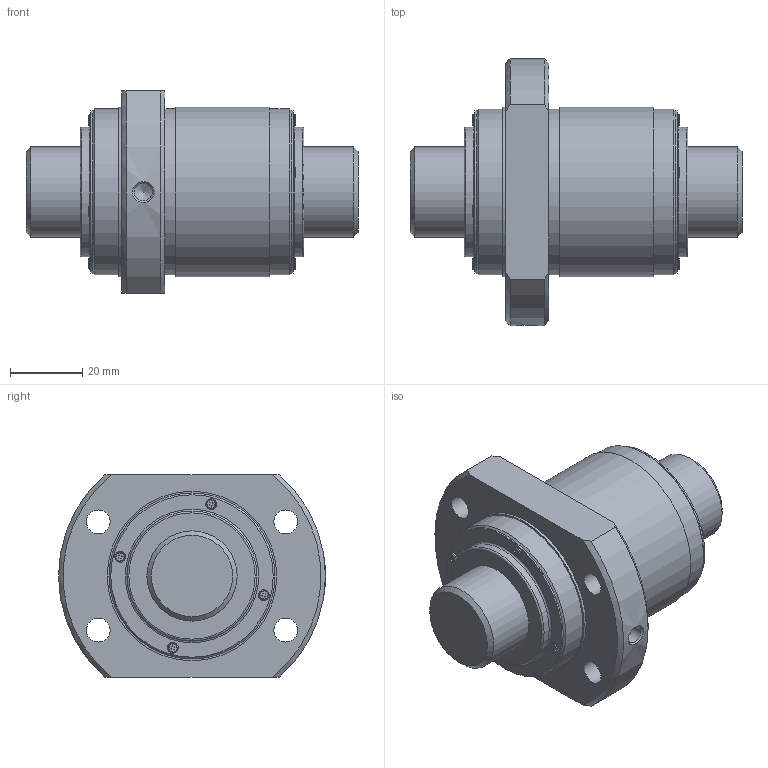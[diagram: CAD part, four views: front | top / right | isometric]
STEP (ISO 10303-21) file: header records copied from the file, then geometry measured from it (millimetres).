
FILE_DESCRIPTION(/* description */ ('STEP AP203'),/* implementation_level */ '2;1');
FILE_NAME(/* name */ 'BLK2525-7.2ZZ+92LC7T_000',/* time_stamp */ '2025-06-11T06:29:09+02:00',/* author */ ('License CC BY-ND 4.0'),/* organization */ ('CADENAS'),/* preprocessor_version */ 'ST-DEVELOPER v19.3',/* originating_system */ 'PARTsolutions',/* authorisation */ ' ');
FILE_SCHEMA (('CONFIG_CONTROL_DESIGN'));
Length unit declared in the file: millimetre
Products named in the file (3): BLK2525-7.2ZZ+92LC7T_000; BLK2525-7.20ZZ0 Shaft; BLK2525-7.2ZZ Nut
Assembly tree (2 placements, depth 2):
  BLK2525-7.2ZZ+92LC7T_000
    BLK2525-7.20ZZ0 Shaft
    BLK2525-7.2ZZ Nut
Bounding box: 92 x 74 x 56 mm (x, y, z)
Volume: 138134.3 mm3; surface area: 29904.8 mm2
Topology: 2 solids, 2 shells, 205 faces, 515 edges, 337 vertices
Faces by surface type: plane 125, cylinder 58, torus 12, cone 10
Full cylindrical faces by diameter (mm): 3 x8, 4.917 x1, 6.6 x4, 25 x2, 36 x2, 45 x2, 46 x3, 47 x2
Entity records: 5998 total; most frequent: CARTESIAN_POINT 1049, DIRECTION 1012, ORIENTED_EDGE 942, EDGE_CURVE 471, AXIS2_PLACEMENT_3D 342, VERTEX_POINT 336, LINE 328, VECTOR 328
